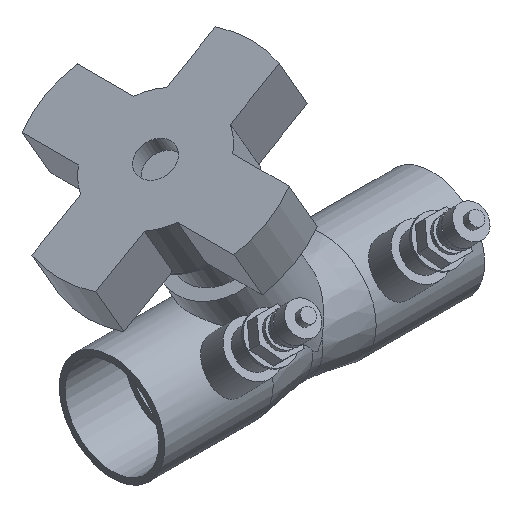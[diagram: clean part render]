
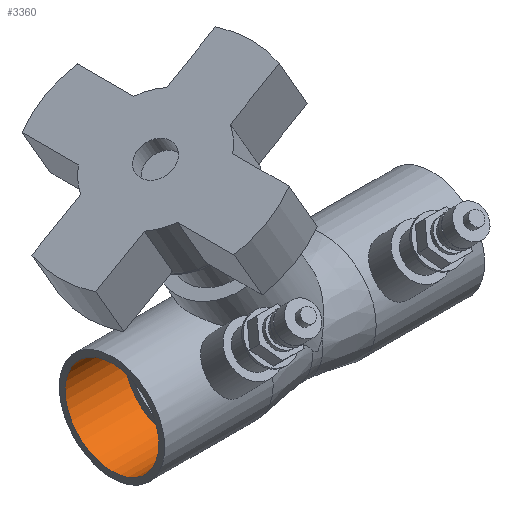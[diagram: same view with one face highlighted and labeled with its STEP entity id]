
A CAD part, isometric view. The second image highlights one B-rep face of the part: STEP entity #3360.
In plain terms, the highlighted cylindrical face has radius 0.69 mm (diameter 1.38 mm), a full revolution.
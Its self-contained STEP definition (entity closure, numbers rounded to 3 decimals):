
#3283 = PLANE('',#3284);
#3284 = AXIS2_PLACEMENT_3D('',#3285,#3286,#3287);
#3285 = CARTESIAN_POINT('',(0.,0.,0.));
#3286 = DIRECTION('',(-1.,0.,0.));
#3287 = DIRECTION('',(0.,0.,1.));
#3325 = EDGE_CURVE('',#3326,#3326,#3328,.T.);
#3326 = VERTEX_POINT('',#3327);
#3327 = CARTESIAN_POINT('',(0.,-0.69,0.));
#3328 = SURFACE_CURVE('',#3329,(#3334,#3345),.PCURVE_S1.);
#3329 = CIRCLE('',#3330,0.69);
#3330 = AXIS2_PLACEMENT_3D('',#3331,#3332,#3333);
#3331 = CARTESIAN_POINT('',(0.,0.,0.));
#3332 = DIRECTION('',(1.,0.,0.));
#3333 = DIRECTION('',(0.,-1.,0.));
#3334 = PCURVE('',#3283,#3335);
#3335 = DEFINITIONAL_REPRESENTATION('',(#3336),#3344);
#3336 = ( BOUNDED_CURVE() B_SPLINE_CURVE(2,(#3337,#3338,#3339,#3340,
#3341,#3342,#3343),.UNSPECIFIED.,.T.,.F.) B_SPLINE_CURVE_WITH_KNOTS((1,2
    ,2,2,2,1),(-2.094,0.,2.094,4.189,
6.283,8.378),.UNSPECIFIED.) CURVE() 
GEOMETRIC_REPRESENTATION_ITEM() RATIONAL_B_SPLINE_CURVE((1.,0.5,1.,0.5,
1.,0.5,1.)) REPRESENTATION_ITEM('') );
#3337 = CARTESIAN_POINT('',(0.,-0.69));
#3338 = CARTESIAN_POINT('',(-1.195,-0.69));
#3339 = CARTESIAN_POINT('',(-0.598,0.345));
#3340 = CARTESIAN_POINT('',(0.,1.38));
#3341 = CARTESIAN_POINT('',(0.598,0.345));
#3342 = CARTESIAN_POINT('',(1.195,-0.69));
#3343 = CARTESIAN_POINT('',(0.,-0.69));
#3344 = ( GEOMETRIC_REPRESENTATION_CONTEXT(2) 
PARAMETRIC_REPRESENTATION_CONTEXT() REPRESENTATION_CONTEXT('2D SPACE',''
  ) );
#3345 = PCURVE('',#3346,#3351);
#3346 = CYLINDRICAL_SURFACE('',#3347,0.69);
#3347 = AXIS2_PLACEMENT_3D('',#3348,#3349,#3350);
#3348 = CARTESIAN_POINT('',(0.,0.,0.));
#3349 = DIRECTION('',(1.,0.,0.));
#3350 = DIRECTION('',(0.,-1.,0.));
#3351 = DEFINITIONAL_REPRESENTATION('',(#3352),#3356);
#3352 = LINE('',#3353,#3354);
#3353 = CARTESIAN_POINT('',(0.,0.));
#3354 = VECTOR('',#3355,1.);
#3355 = DIRECTION('',(1.,0.));
#3356 = ( GEOMETRIC_REPRESENTATION_CONTEXT(2) 
PARAMETRIC_REPRESENTATION_CONTEXT() REPRESENTATION_CONTEXT('2D SPACE',''
  ) );
#3360 = ADVANCED_FACE('',(#3361),#3346,.F.);
#3361 = FACE_BOUND('',#3362,.F.);
#3362 = EDGE_LOOP('',(#3363,#3392,#3412,#3413));
#3363 = ORIENTED_EDGE('',*,*,#3364,.T.);
#3364 = EDGE_CURVE('',#3365,#3365,#3367,.T.);
#3365 = VERTEX_POINT('',#3366);
#3366 = CARTESIAN_POINT('',(0.875,-0.69,0.));
#3367 = SURFACE_CURVE('',#3368,(#3373,#3380),.PCURVE_S1.);
#3368 = CIRCLE('',#3369,0.69);
#3369 = AXIS2_PLACEMENT_3D('',#3370,#3371,#3372);
#3370 = CARTESIAN_POINT('',(0.875,0.,0.));
#3371 = DIRECTION('',(-1.,0.,0.));
#3372 = DIRECTION('',(0.,-1.,0.));
#3373 = PCURVE('',#3346,#3374);
#3374 = DEFINITIONAL_REPRESENTATION('',(#3375),#3379);
#3375 = LINE('',#3376,#3377);
#3376 = CARTESIAN_POINT('',(6.283,0.875));
#3377 = VECTOR('',#3378,1.);
#3378 = DIRECTION('',(-1.,0.));
#3379 = ( GEOMETRIC_REPRESENTATION_CONTEXT(2) 
PARAMETRIC_REPRESENTATION_CONTEXT() REPRESENTATION_CONTEXT('2D SPACE',''
  ) );
#3380 = PCURVE('',#3381,#3386);
#3381 = PLANE('',#3382);
#3382 = AXIS2_PLACEMENT_3D('',#3383,#3384,#3385);
#3383 = CARTESIAN_POINT('',(0.875,0.,0.));
#3384 = DIRECTION('',(-1.,0.,0.));
#3385 = DIRECTION('',(0.,0.,1.));
#3386 = DEFINITIONAL_REPRESENTATION('',(#3387),#3391);
#3387 = CIRCLE('',#3388,0.69);
#3388 = AXIS2_PLACEMENT_2D('',#3389,#3390);
#3389 = CARTESIAN_POINT('',(0.,0.));
#3390 = DIRECTION('',(0.,-1.));
#3391 = ( GEOMETRIC_REPRESENTATION_CONTEXT(2) 
PARAMETRIC_REPRESENTATION_CONTEXT() REPRESENTATION_CONTEXT('2D SPACE',''
  ) );
#3392 = ORIENTED_EDGE('',*,*,#3393,.F.);
#3393 = EDGE_CURVE('',#3326,#3365,#3394,.T.);
#3394 = SEAM_CURVE('',#3395,(#3398,#3405),.PCURVE_S1.);
#3395 = B_SPLINE_CURVE_WITH_KNOTS('',1,(#3396,#3397),.UNSPECIFIED.,.F.,
  .F.,(2,2),(0.,0.875),.PIECEWISE_BEZIER_KNOTS.);
#3396 = CARTESIAN_POINT('',(0.,-0.69,0.));
#3397 = CARTESIAN_POINT('',(0.875,-0.69,0.));
#3398 = PCURVE('',#3346,#3399);
#3399 = DEFINITIONAL_REPRESENTATION('',(#3400),#3404);
#3400 = LINE('',#3401,#3402);
#3401 = CARTESIAN_POINT('',(0.,0.));
#3402 = VECTOR('',#3403,1.);
#3403 = DIRECTION('',(0.,1.));
#3404 = ( GEOMETRIC_REPRESENTATION_CONTEXT(2) 
PARAMETRIC_REPRESENTATION_CONTEXT() REPRESENTATION_CONTEXT('2D SPACE',''
  ) );
#3405 = PCURVE('',#3346,#3406);
#3406 = DEFINITIONAL_REPRESENTATION('',(#3407),#3411);
#3407 = LINE('',#3408,#3409);
#3408 = CARTESIAN_POINT('',(6.283,0.));
#3409 = VECTOR('',#3410,1.);
#3410 = DIRECTION('',(0.,1.));
#3411 = ( GEOMETRIC_REPRESENTATION_CONTEXT(2) 
PARAMETRIC_REPRESENTATION_CONTEXT() REPRESENTATION_CONTEXT('2D SPACE',''
  ) );
#3412 = ORIENTED_EDGE('',*,*,#3325,.T.);
#3413 = ORIENTED_EDGE('',*,*,#3393,.T.);
